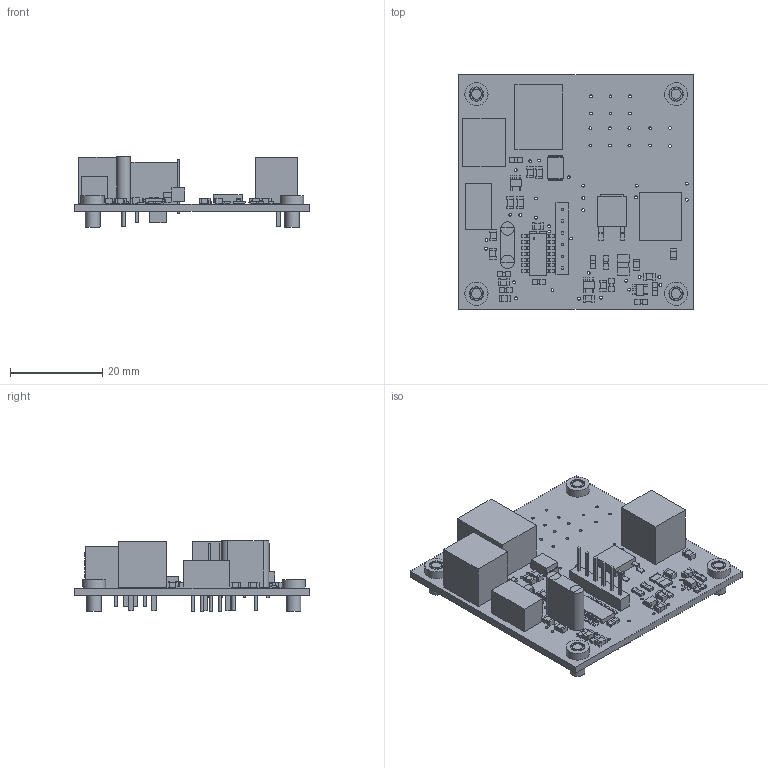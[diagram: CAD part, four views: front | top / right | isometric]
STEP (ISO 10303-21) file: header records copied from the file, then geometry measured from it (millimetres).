
FILE_DESCRIPTION(('Open CASCADE Model'),'2;1');
FILE_NAME('Open CASCADE Shape Model','2016-11-15T07:39:05',('Author'),( 'Open CASCADE'),'Open CASCADE STEP processor 6.8','Open CASCADE 6.8' ,'Unknown');
FILE_SCHEMA(('AUTOMOTIVE_DESIGN_CC2 { 1 2 10303 214 -1 1 5 4 }'));
Length unit declared in the file: millimetre
Products named in the file (191): R9; RES0603; SOLID; R1; R3; R4; R5; R6; R7; R12; R8; C4; CAP; C8; C5; C6; C12; C9; C3; C11; C13; C10; C14; C1; CAP0805; C2; C7; U2; MCP601-SOT23-5; U3; Q1; MJD31CT4; R2; POWERRES1210; NONE1; ESD300; J1; 2_1MMDCPWR; D1; ES1D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
Assembly tree (174 placements, depth 4):
  R9
    RES0603
      SOLID
      SOLID
      SOLID
  R1
    RES0603
      SOLID
      SOLID
      SOLID
  R3
    RES0603
      SOLID
      SOLID
      SOLID
  R4
    RES0603
      SOLID
      SOLID
      SOLID
  R5
    RES0603
      SOLID
      SOLID
      SOLID
Bounding box: 50.77 x 50.77 x 15.21 mm (x, y, z)
Volume: 8781.7 mm3; surface area: 11018.2 mm2
Topology: 247 solids, 247 shells, 1481 faces, 2961 edges, 1974 vertices
Faces by surface type: plane 1330, cylinder 151
Full cylindrical faces by diameter (mm): 0.61 x47, 0.611 x4, 0.711 x4, 0.713 x2, 0.813 x2, 0.889 x6, 1.524 x4, 2.1 x1, 2.94 x2, 3.1 x4, 3.2 x4, 5 x4, 5.4 x1
Entity records: 46855 total; most frequent: CARTESIAN_POINT 8015, DIRECTION 6837, LINE 4457, VECTOR 4457, ORIENTED_EDGE 3246, PCURVE 3246, DEFINITIONAL_REPRESENTATION 3246, EDGE_CURVE 1623
